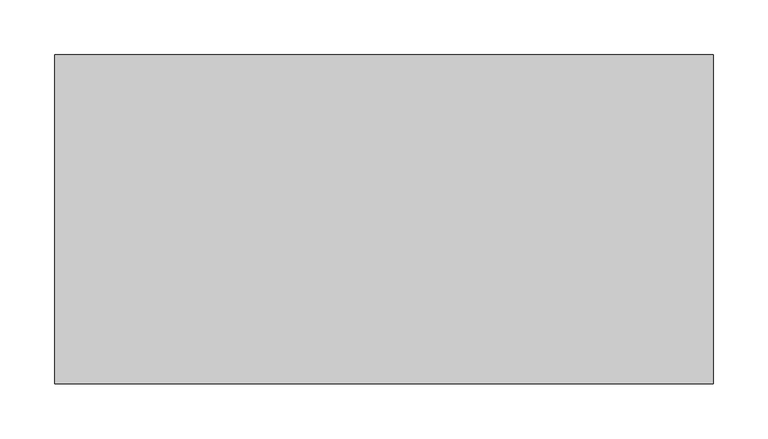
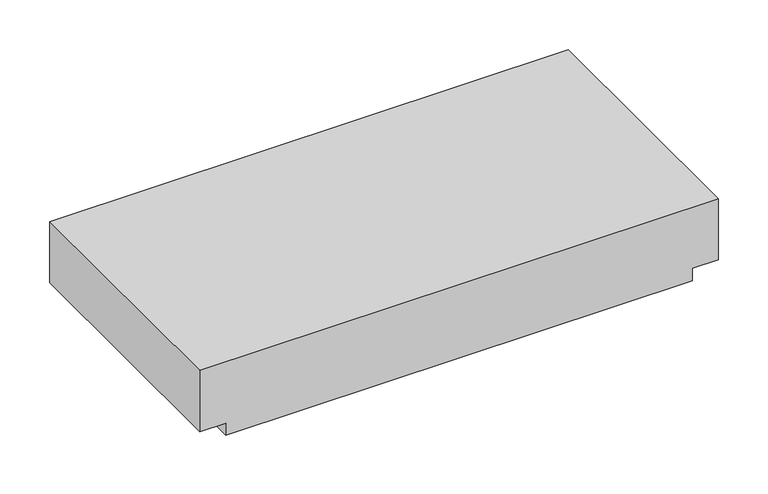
"""IFC4 building model written with IfcOpenShell, lengths in millimetres: proxy geometry, Módulo Laje de Concreto Celular com Friso - Celucon : MLCC friso 09x30x60cm (A x B x C)."""

from ifc_helpers import new_model, si_unit, frame, origin, place, context, project, spatial, polyline, outline, extrude, source, transform, mapped, element, save


def generic_models_3bab0257(model_context):
    return source(origin(), model_context, "Body", "SweptSolid", [
        extrude(outline(polyline([(90.0, 300.0), (90.0, -300.0), (15.0, -300.0), (15.0, -270.0), (0.0, -270.0), (0.0, 270.0), (15.0, 270.0), (15.0, 300.0), (90.0, 300.0)])), frame((0.0, -150.0, 0.0), z_axis=(0.0, 1.0, 0.0), x_axis=(0.0, 0.0, 1.0)), (0.0, 0.0, 1.0), 300.0),
    ])


if __name__ == "__main__":
    model = new_model("IFC4")
    model_context = context("Model", 3, world=origin())
    ifc_project = project(units=[si_unit("LENGTHUNIT", "METRE", prefix="MILLI")], contexts=[model_context])
    site = spatial("IfcSite", under=ifc_project)
    building = spatial("IfcBuilding", under=site)
    placement = place(None, origin())
    generic_models_shape = generic_models_3bab0257(model_context)
    element("IfcBuildingElementProxy", 1, Name="Módulo Laje de Concreto Celular com Friso - Celucon : MLCC friso 09x30x60cm (A x B x C)", ObjectType="Módulo Laje de Concreto Celular com Friso - Celucon : MLCC friso 09x30x60cm (A x B x C)", at=placement, inside=building, context=model_context, shape_type="MappedRepresentation", body=[
        mapped(generic_models_shape, transform((0.0, 0.0, 0.0), x_axis=(1.0, 0.0, 0.0), y_axis=(0.0, 1.0, 0.0), z_axis=(0.0, 0.0, 1.0))),
    ])
    save(model, "model.ifc")
